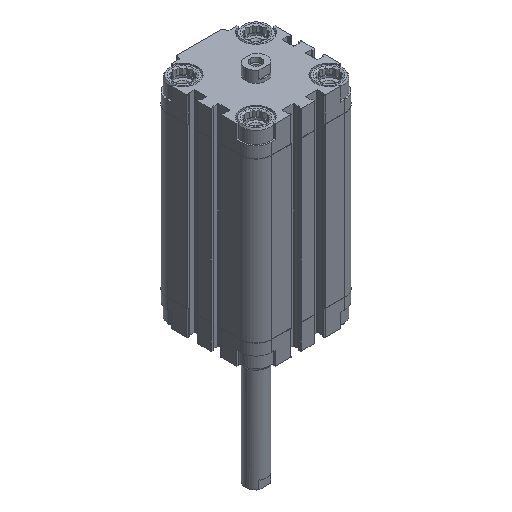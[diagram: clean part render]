
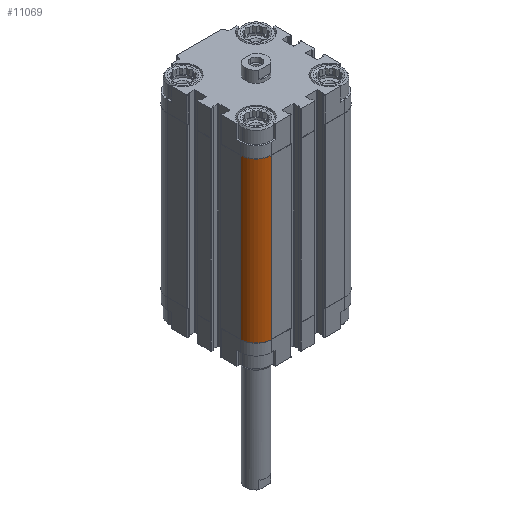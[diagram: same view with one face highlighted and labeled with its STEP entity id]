
A CAD part, isometric view. The second image highlights one B-rep face of the part: STEP entity #11069.
In plain terms, the highlighted cylindrical face has radius 9 mm (diameter 18 mm), a partial arc.
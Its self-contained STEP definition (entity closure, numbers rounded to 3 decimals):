
#575 = CARTESIAN_POINT ( 'NONE',  ( -30., -21., -106. ) ) ;
#739 = CARTESIAN_POINT ( 'NONE',  ( -21., -30., -106. ) ) ;
#2259 = VERTEX_POINT ( 'NONE', #575 ) ;
#2399 = ORIENTED_EDGE ( 'NONE', *, *, #2479, .T. ) ;
#2479 = EDGE_CURVE ( 'NONE', #2259, #6550, #4243, .T. ) ;
#3719 = CYLINDRICAL_SURFACE ( 'NONE', #22017, 9. ) ;
#4243 = CIRCLE ( 'NONE', #4590, 9. ) ;
#4590 = AXIS2_PLACEMENT_3D ( 'NONE', #20874, #15395, #7062 ) ;
#5554 = CARTESIAN_POINT ( 'NONE',  ( -21., -21., -106. ) ) ;
#5628 = VECTOR ( 'NONE', #8121, 1000. ) ;
#5876 = DIRECTION ( 'NONE',  ( 0., 0., 1. ) ) ;
#6550 = VERTEX_POINT ( 'NONE', #739 ) ;
#7062 = DIRECTION ( 'NONE',  ( -1., 0., 0. ) ) ;
#7389 = VECTOR ( 'NONE', #9181, 1000. ) ;
#7588 = CARTESIAN_POINT ( 'NONE',  ( -21., -30., -106. ) ) ;
#8121 = DIRECTION ( 'NONE',  ( 0., 0., 1. ) ) ;
#8248 = VERTEX_POINT ( 'NONE', #10118 ) ;
#9181 = DIRECTION ( 'NONE',  ( 0., 0., 1. ) ) ;
#10023 = EDGE_CURVE ( 'NONE', #6550, #8248, #19242, .T. ) ;
#10118 = CARTESIAN_POINT ( 'NONE',  ( -21., -30., -14.5 ) ) ;
#10662 = ORIENTED_EDGE ( 'NONE', *, *, #19966, .F. ) ;
#11069 = ADVANCED_FACE ( 'NONE', ( #14002 ), #3719, .T. ) ;
#11673 = CARTESIAN_POINT ( 'NONE',  ( -30., -21., -14.5 ) ) ;
#11724 = EDGE_CURVE ( 'NONE', #2259, #19032, #11775, .T. ) ;
#11775 = LINE ( 'NONE', #20342, #5628 ) ;
#12277 = ORIENTED_EDGE ( 'NONE', *, *, #11724, .F. ) ;
#12402 = DIRECTION ( 'NONE',  ( 0., 0., -1. ) ) ;
#14002 = FACE_OUTER_BOUND ( 'NONE', #21877, .T. ) ;
#15395 = DIRECTION ( 'NONE',  ( 0., 0., 1. ) ) ;
#16162 = DIRECTION ( 'NONE',  ( -1., 0., 0. ) ) ;
#16470 = CIRCLE ( 'NONE', #17944, 9. ) ;
#17944 = AXIS2_PLACEMENT_3D ( 'NONE', #19695, #5876, #16162 ) ;
#19032 = VERTEX_POINT ( 'NONE', #11673 ) ;
#19242 = LINE ( 'NONE', #7588, #7389 ) ;
#19367 = DIRECTION ( 'NONE',  ( -1., 0., 0. ) ) ;
#19532 = ORIENTED_EDGE ( 'NONE', *, *, #10023, .T. ) ;
#19695 = CARTESIAN_POINT ( 'NONE',  ( -21., -21., -14.5 ) ) ;
#19966 = EDGE_CURVE ( 'NONE', #19032, #8248, #16470, .T. ) ;
#20342 = CARTESIAN_POINT ( 'NONE',  ( -30., -21., -106. ) ) ;
#20874 = CARTESIAN_POINT ( 'NONE',  ( -21., -21., -106. ) ) ;
#21877 = EDGE_LOOP ( 'NONE', ( #10662, #12277, #2399, #19532 ) ) ;
#22017 = AXIS2_PLACEMENT_3D ( 'NONE', #5554, #12402, #19367 ) ;
